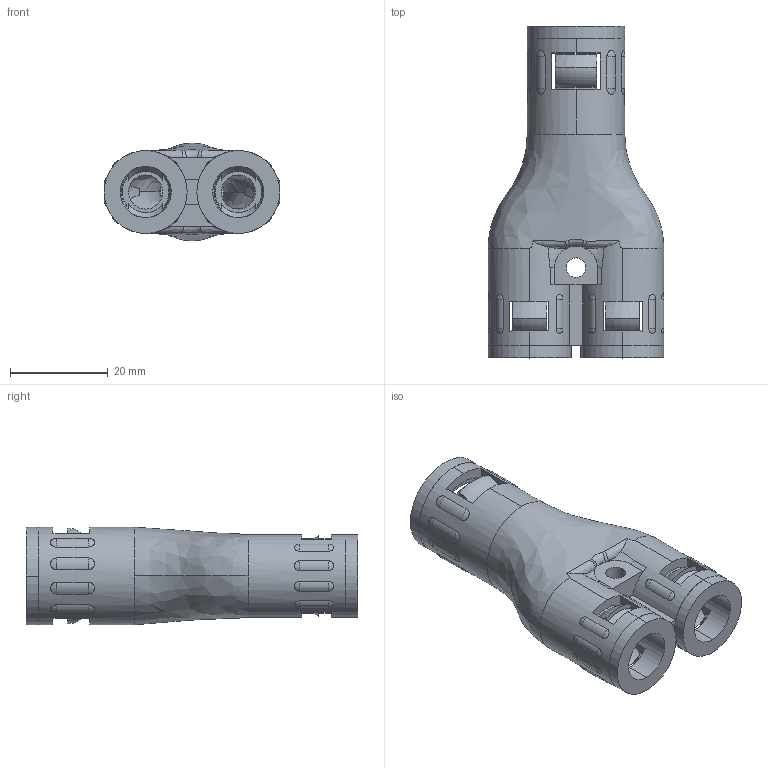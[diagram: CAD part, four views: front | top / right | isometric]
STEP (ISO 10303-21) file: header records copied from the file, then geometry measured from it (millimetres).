
FILE_DESCRIPTION (( 'STEP AP214' ), '1' );
FILE_NAME ('WQY-PA AD13.0-2x10.0.STEP', '2019-05-09T03:03:27', ( 'c' ), ( 'Microsoft' ), 'SwSTEP 2.0', 'SolidWorks 2016', '' );
FILE_SCHEMA (( 'AUTOMOTIVE_DESIGN' ));
Length unit declared in the file: millimetre
Products named in the file (6): GFD-AD10.0; GFD-AD13.0; NSK-AD10.0; NSK-AD13.0; WQY-PA-AD13.0-2X10.0-01; WQY-PA AD13.0-2x10.0
Assembly tree (7 placements, depth 2):
  WQY-PA AD13.0-2x10.0
    WQY-PA-AD13.0-2X10.0-01
    NSK-AD13.0
    NSK-AD10.0  x2
    GFD-AD13.0
    GFD-AD10.0  x2
Bounding box: 36 x 68.02 x 20 mm (x, y, z)
Volume: 13044.2 mm3; surface area: 16593.5 mm2
Topology: 4 solids, 13 shells, 438 faces, 1120 edges, 710 vertices
Faces by surface type: cone 140, plane 124, torus 82, cylinder 73, bspline 19
Entity records: 16435 total; most frequent: CARTESIAN_POINT 6848, ORIENTED_EDGE 1820, DIRECTION 1806, EDGE_CURVE 916, AXIS2_PLACEMENT_3D 742, VERTEX_POINT 588, CIRCLE 399, EDGE_LOOP 393
